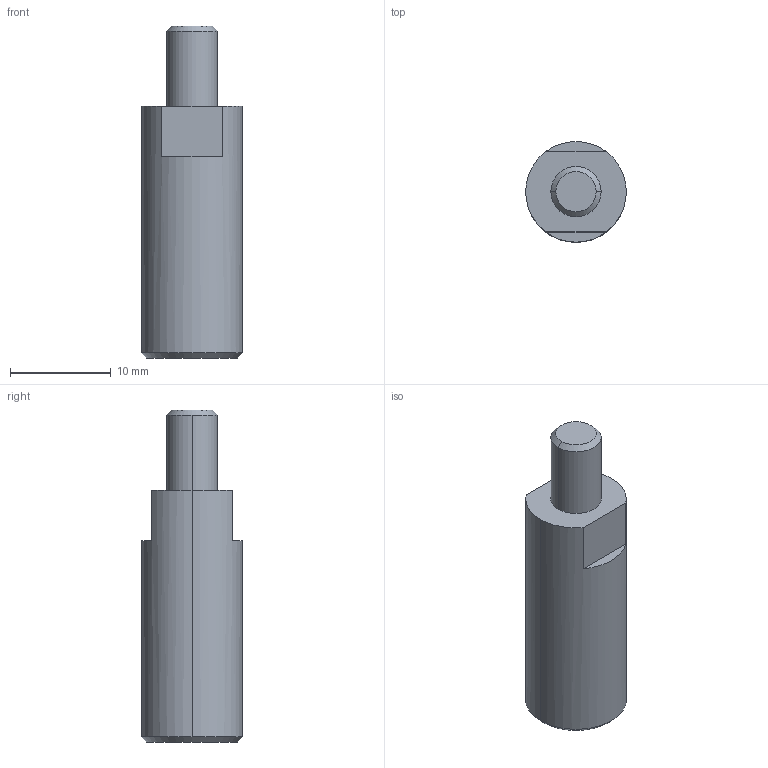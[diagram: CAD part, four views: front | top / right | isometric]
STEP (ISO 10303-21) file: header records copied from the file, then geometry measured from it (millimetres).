
FILE_DESCRIPTION(('CATIA V5 STEP Exchange'),'2;1');
FILE_NAME('G:\够快云库\系统集成开发部\1.部门成员\孙国\工装\切割工装\STP\0331\GZ-QG08_V1 过渡螺柱.stp','2021-03-31T06:32:06+00:00',('none'),('none'),'CATIA Version 5 Release 20 GA (IN-10)','CATIA V5 STEP AP214','none');
FILE_SCHEMA(('AUTOMOTIVE_DESIGN { 1 0 10303 214 1 1 1 1 }'));
Length unit declared in the file: millimetre
Products named in the file (1): 过渡螺柱
Bounding box: 10 x 10 x 33 mm (x, y, z)
Volume: 2074.1 mm3; surface area: 1049.3 mm2
Topology: 1 solids, 1 shells, 15 faces, 32 edges, 20 vertices
Faces by surface type: plane 7, cone 4, cylinder 4
Entity records: 401 total; most frequent: CARTESIAN_POINT 65, ORIENTED_EDGE 64, DIRECTION 56, EDGE_CURVE 32, AXIS2_PLACEMENT_3D 29, VERTEX_POINT 20, VECTOR 16, CIRCLE 16
